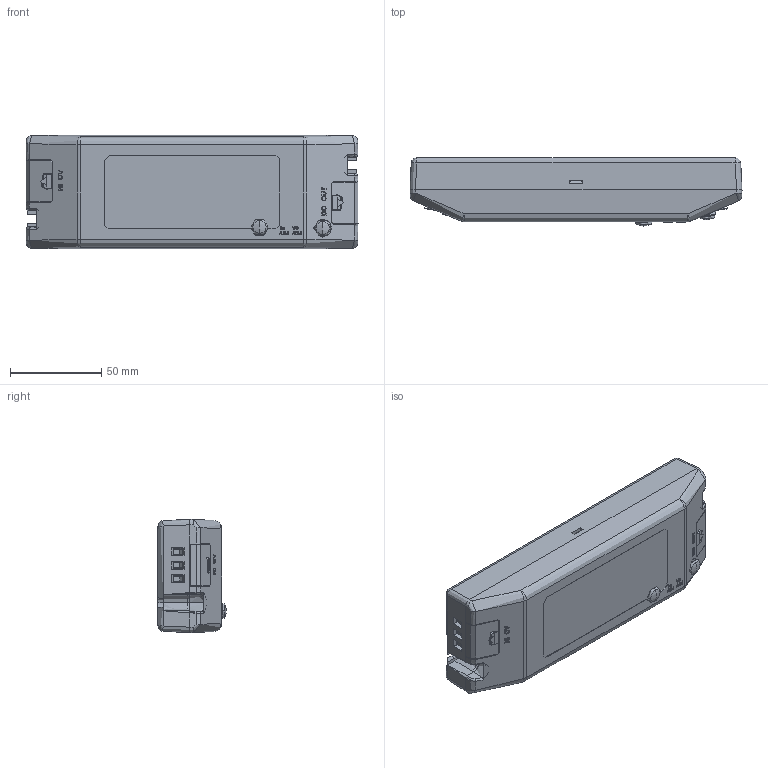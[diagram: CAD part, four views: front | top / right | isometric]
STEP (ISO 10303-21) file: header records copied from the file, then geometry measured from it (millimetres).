
FILE_DESCRIPTION(('OneSpaceDesigner STEP Export'),'2;1');
FILE_NAME('PLC-60.stp','2010-06-08T 9:04:11',(''),(''),'OneSpace Designer STEP processor for AP214 (Solid Model)','OneSpace Designer 13.20 11-May-2005 (C) CoCreate Software GmbH','');
FILE_SCHEMA(('AUTOMOTIVE_DESIGN { 1 0 10303 214 1 1 1 1 }'));
Length unit declared in the file: millimetre
Products named in the file (14): PLC-60-TOP; plc-60-top.stp; PLC-60-COVER.1; PCB; 3P-CONECT.1.2; 3P-CONECT.1.1; vr.1; a1.1.1; RD0801007.1; a1; cover; base; a2.1
Assembly tree (16 placements, depth 4):
  a1
    a2.1
      base
      cover
        RD0801007.1  x2
        a1
      a1.1.1
        vr.1  x2
        3P-CONECT.1.1
        3P-CONECT.1.2
        PCB
    PLC-60-COVER.1  x2
    plc-60-top.stp
      PLC-60-TOP
Bounding box: 181.55 x 37.37 x 61.93 mm (x, y, z)
Volume: 21052.9 mm3; surface area: 99826.8 mm2
Topology: 9 solids, 10 shells, 1807 faces, 4923 edges, 3168 vertices
Faces by surface type: plane 1206, cylinder 293, bspline 168, cone 73, torus 45, sphere 20, extrusion 2
Entity records: 60142 total; most frequent: CARTESIAN_POINT 19520, ORIENTED_EDGE 9119, DIRECTION 7171, EDGE_CURVE 4564, VECTOR 3445, LINE 3443, VERTEX_POINT 2951, AXIS2_PLACEMENT_3D 1863
